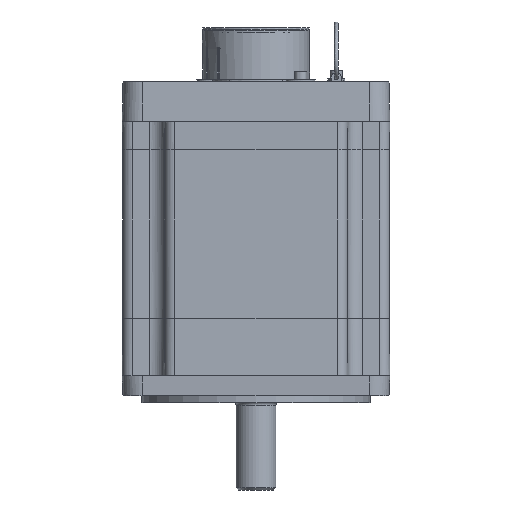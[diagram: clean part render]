
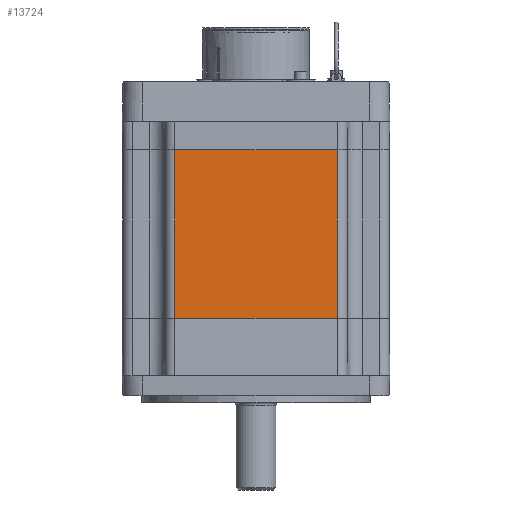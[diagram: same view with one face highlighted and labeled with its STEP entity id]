
A CAD part, front view. The second image highlights one B-rep face of the part: STEP entity #13724.
In plain terms, the highlighted planar face has unit normal (0, -1, 0).
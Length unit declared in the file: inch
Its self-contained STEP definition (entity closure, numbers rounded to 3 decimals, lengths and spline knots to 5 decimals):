
#13310=CARTESIAN_POINT('',(1.025,-1.68,0.725));
#13311=VERTEX_POINT('',#13310);
#13319=CARTESIAN_POINT('',(-1.025,-1.68,0.725));
#13320=VERTEX_POINT('',#13319);
#13321=CARTESIAN_POINT('',(1.025,-1.68,0.725));
#13322=DIRECTION('',(-1.0,0.0,0.0));
#13323=VECTOR('',#13322,2.05);
#13324=LINE('',#13321,#13323);
#13325=EDGE_CURVE('',#13311,#13320,#13324,.T.);
#13681=CARTESIAN_POINT('',(1.025,-1.68,2.845));
#13682=VERTEX_POINT('',#13681);
#13690=CARTESIAN_POINT('',(1.025,-1.68,2.845));
#13691=DIRECTION('',(0.0,0.0,-1.0));
#13692=VECTOR('',#13691,2.12);
#13693=LINE('',#13690,#13692);
#13694=EDGE_CURVE('',#13682,#13311,#13693,.T.);
#13701=CARTESIAN_POINT('',(1.15,-1.68,0.725));
#13702=DIRECTION('',(0.0,-1.0,0.0));
#13703=DIRECTION('',(0.0,0.0,-1.0));
#13704=AXIS2_PLACEMENT_3D('',#13701,#13702,#13703);
#13705=PLANE('',#13704);
#13706=CARTESIAN_POINT('',(-1.025,-1.68,2.845));
#13707=VERTEX_POINT('',#13706);
#13708=CARTESIAN_POINT('',(-1.025,-1.68,0.725));
#13709=DIRECTION('',(0.0,0.0,1.0));
#13710=VECTOR('',#13709,2.12);
#13711=LINE('',#13708,#13710);
#13712=EDGE_CURVE('',#13320,#13707,#13711,.T.);
#13713=ORIENTED_EDGE('',*,*,#13712,.F.);
#13714=ORIENTED_EDGE('',*,*,#13325,.F.);
#13715=ORIENTED_EDGE('',*,*,#13694,.F.);
#13716=CARTESIAN_POINT('',(1.025,-1.68,2.845));
#13717=DIRECTION('',(-1.0,0.0,0.0));
#13718=VECTOR('',#13717,2.05);
#13719=LINE('',#13716,#13718);
#13720=EDGE_CURVE('',#13682,#13707,#13719,.T.);
#13721=ORIENTED_EDGE('',*,*,#13720,.T.);
#13722=EDGE_LOOP('',(#13713,#13714,#13715,#13721));
#13723=FACE_OUTER_BOUND('',#13722,.T.);
#13724=ADVANCED_FACE('',(#13723),#13705,.T.);
